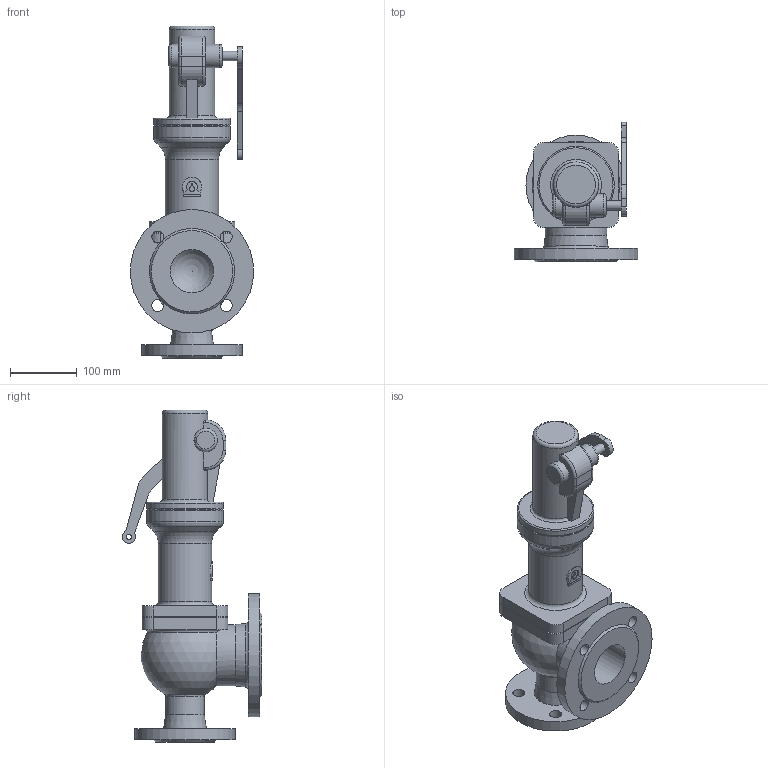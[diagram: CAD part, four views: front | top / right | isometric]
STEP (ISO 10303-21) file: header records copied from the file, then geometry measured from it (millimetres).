
FILE_DESCRIPTION(('STEP AP203'), '1');
FILE_NAME('Êëàïàí ïðåäîõðàíèòåëüíûé ïîëíîïîäüåìíûé SV2F DN40x65', '', ('UNSPECIFIED'), ('UNSPECIFIED'), 'ASCON STEP Converter 1.6', 'ASCON Math Kernel', '');
FILE_SCHEMA(('CONFIG_CONTROL_DESIGN'));
Length unit declared in the file: millimetre
Bounding box: 185 x 208.96 x 497.5 mm (x, y, z)
Volume: 3912383.7 mm3; surface area: 347698.1 mm2
Topology: 1 solids, 1 shells, 145 faces, 415 edges, 275 vertices
Faces by surface type: plane 66, cylinder 54, torus 15, cone 6, sphere 2, bspline 2
Full cylindrical faces by diameter (mm): 8 x1, 14 x1, 18 x8, 35 x1, 40 x1, 58 x1, 65 x1, 68 x1, 77.175 x1, 80 x1, 92 x1, 115 x2, 128 x1, 150 x1, 185 x1
Entity records: 7574 total; most frequent: CARTESIAN_POINT 2637, DIRECTION 805, ORIENTED_EDGE 744, EDGE_CURVE 372, AXIS2_PLACEMENT_3D 337, VERTEX_POINT 274, EDGE_LOOP 208, CIRCLE 193
